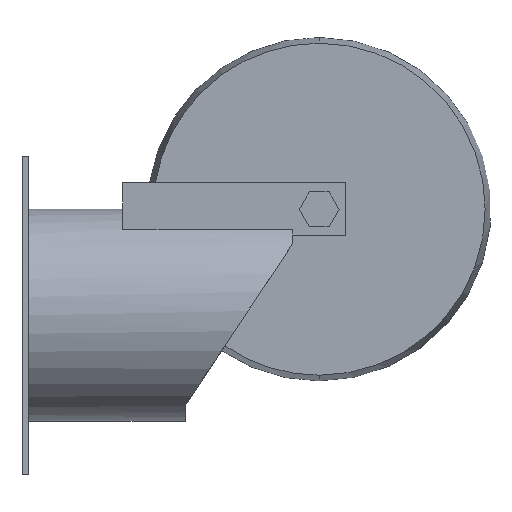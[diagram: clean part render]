
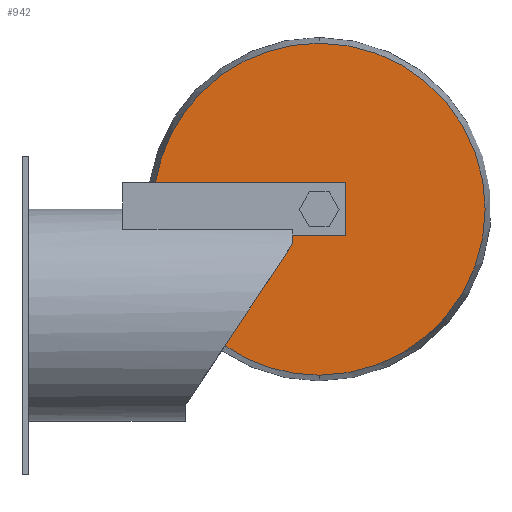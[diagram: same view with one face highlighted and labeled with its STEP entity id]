
A CAD part, left-side view. The second image highlights one B-rep face of the part: STEP entity #942.
In plain terms, the highlighted planar face has unit normal (-1, 0, 0).
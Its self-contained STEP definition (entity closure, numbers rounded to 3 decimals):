
#11 = ORIENTED_EDGE ( 'NONE', *, *, #1139, .F. ) ;
#17 = CARTESIAN_POINT ( 'NONE',  ( -19., -61.5, -34. ) ) ;
#18 = AXIS2_PLACEMENT_3D ( 'NONE', #1021, #291, #1322 ) ;
#19 = LINE ( 'NONE', #626, #386 ) ;
#49 = EDGE_CURVE ( 'NONE', #346, #256, #819, .T. ) ;
#53 = VECTOR ( 'NONE', #135, 1000. ) ;
#69 = VECTOR ( 'NONE', #843, 1000. ) ;
#135 = DIRECTION ( 'NONE',  ( 0., 0., 1. ) ) ;
#171 = VERTEX_POINT ( 'NONE', #1677 ) ;
#228 = CARTESIAN_POINT ( 'NONE',  ( -19., -112., -22.553 ) ) ;
#256 = VERTEX_POINT ( 'NONE', #1656 ) ;
#258 = CARTESIAN_POINT ( 'NONE',  ( -19., -112., 50. ) ) ;
#262 = ORIENTED_EDGE ( 'NONE', *, *, #968, .T. ) ;
#290 = LINE ( 'NONE', #1795, #358 ) ;
#291 = DIRECTION ( 'NONE',  ( 1., 0., 0. ) ) ;
#300 = CARTESIAN_POINT ( 'NONE',  ( -19., -50.251, 50. ) ) ;
#309 = DIRECTION ( 'NONE',  ( 0., 0., -1. ) ) ;
#319 = DIRECTION ( 'NONE',  ( 1., 0., 0. ) ) ;
#335 = VERTEX_POINT ( 'NONE', #677 ) ;
#346 = VERTEX_POINT ( 'NONE', #228 ) ;
#358 = VECTOR ( 'NONE', #1337, 1000. ) ;
#375 = ORIENTED_EDGE ( 'NONE', *, *, #433, .F. ) ;
#386 = VECTOR ( 'NONE', #1236, 1000. ) ;
#433 = EDGE_CURVE ( 'NONE', #171, #1856, #290, .T. ) ;
#472 = ORIENTED_EDGE ( 'NONE', *, *, #1783, .F. ) ;
#486 = CARTESIAN_POINT ( 'NONE',  ( -19., -122., 30. ) ) ;
#550 = DIRECTION ( 'NONE',  ( 0., 0., -1. ) ) ;
#626 = CARTESIAN_POINT ( 'NONE',  ( -19., -112., 30. ) ) ;
#636 = CIRCLE ( 'NONE', #1354, 62.553 ) ;
#677 = CARTESIAN_POINT ( 'NONE',  ( -19., -112., 102.553 ) ) ;
#749 = LINE ( 'NONE', #17, #1635 ) ;
#819 = CIRCLE ( 'NONE', #18, 62.553 ) ;
#827 = EDGE_CURVE ( 'NONE', #335, #346, #636, .T. ) ;
#843 = DIRECTION ( 'NONE',  ( 0., 1., 0. ) ) ;
#853 = EDGE_CURVE ( 'NONE', #1153, #1812, #860, .T. ) ;
#860 = LINE ( 'NONE', #1444, #53 ) ;
#917 = VERTEX_POINT ( 'NONE', #300 ) ;
#942 = ADVANCED_FACE ( 'NONE', ( #1064 ), #1792, .F. ) ;
#968 = EDGE_CURVE ( 'NONE', #171, #256, #749, .T. ) ;
#1021 = CARTESIAN_POINT ( 'NONE',  ( -19., -112., 40. ) ) ;
#1064 = FACE_OUTER_BOUND ( 'NONE', #1157, .T. ) ;
#1119 = CIRCLE ( 'NONE', #1587, 62.553 ) ;
#1139 = EDGE_CURVE ( 'NONE', #1856, #1153, #19, .T. ) ;
#1141 = LINE ( 'NONE', #258, #69 ) ;
#1144 = DIRECTION ( 'NONE',  ( 1., 0., 0. ) ) ;
#1153 = VERTEX_POINT ( 'NONE', #486 ) ;
#1157 = EDGE_LOOP ( 'NONE', ( #472, #1830, #1755, #11, #375, #262, #1580, #1548 ) ) ;
#1236 = DIRECTION ( 'NONE',  ( 0., -1., 0. ) ) ;
#1296 = DIRECTION ( 'NONE',  ( 1., 0., 0. ) ) ;
#1299 = CARTESIAN_POINT ( 'NONE',  ( -19., -112., 40. ) ) ;
#1322 = DIRECTION ( 'NONE',  ( 0., 0., -1. ) ) ;
#1337 = DIRECTION ( 'NONE',  ( 0., 0., 1. ) ) ;
#1354 = AXIS2_PLACEMENT_3D ( 'NONE', #1299, #1144, #1916 ) ;
#1444 = CARTESIAN_POINT ( 'NONE',  ( -19., -122., 40. ) ) ;
#1477 = CARTESIAN_POINT ( 'NONE',  ( -19., -102., 30. ) ) ;
#1500 = DIRECTION ( 'NONE',  ( 0., 0.553, -0.833 ) ) ;
#1548 = ORIENTED_EDGE ( 'NONE', *, *, #827, .F. ) ;
#1580 = ORIENTED_EDGE ( 'NONE', *, *, #49, .F. ) ;
#1587 = AXIS2_PLACEMENT_3D ( 'NONE', #1609, #1296, #550 ) ;
#1609 = CARTESIAN_POINT ( 'NONE',  ( -19., -112., 40. ) ) ;
#1635 = VECTOR ( 'NONE', #1500, 1000. ) ;
#1656 = CARTESIAN_POINT ( 'NONE',  ( -19., -76.456, -11.474 ) ) ;
#1677 = CARTESIAN_POINT ( 'NONE',  ( -19., -102., 27. ) ) ;
#1738 = CARTESIAN_POINT ( 'NONE',  ( -19., -122., 50. ) ) ;
#1755 = ORIENTED_EDGE ( 'NONE', *, *, #853, .F. ) ;
#1765 = AXIS2_PLACEMENT_3D ( 'NONE', #1801, #319, #309 ) ;
#1783 = EDGE_CURVE ( 'NONE', #917, #335, #1119, .T. ) ;
#1792 = PLANE ( 'NONE',  #1765 ) ;
#1795 = CARTESIAN_POINT ( 'NONE',  ( -19., -102., 40. ) ) ;
#1801 = CARTESIAN_POINT ( 'NONE',  ( -19., -112., 40. ) ) ;
#1812 = VERTEX_POINT ( 'NONE', #1738 ) ;
#1830 = ORIENTED_EDGE ( 'NONE', *, *, #1898, .F. ) ;
#1856 = VERTEX_POINT ( 'NONE', #1477 ) ;
#1898 = EDGE_CURVE ( 'NONE', #1812, #917, #1141, .T. ) ;
#1916 = DIRECTION ( 'NONE',  ( 0., 0., -1. ) ) ;
